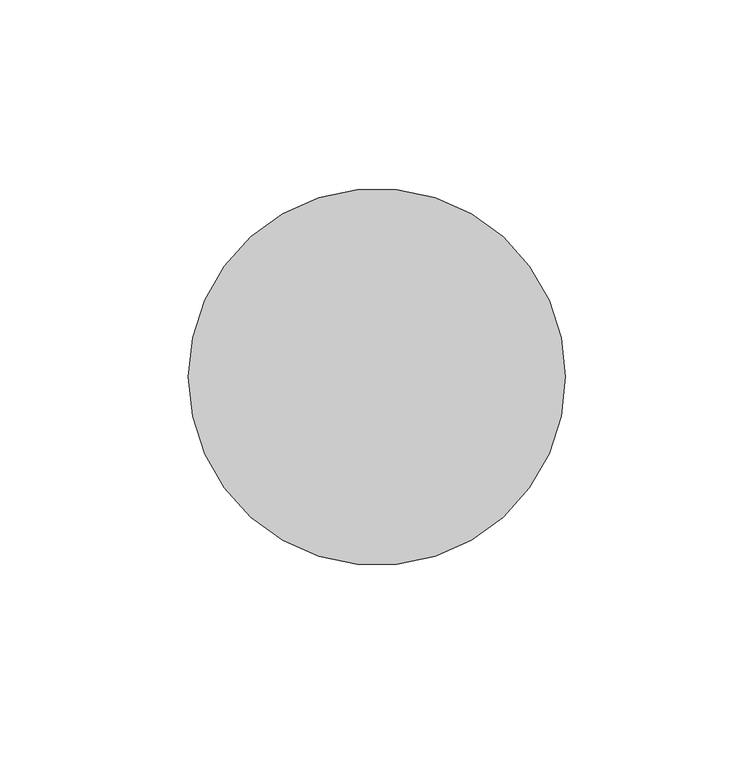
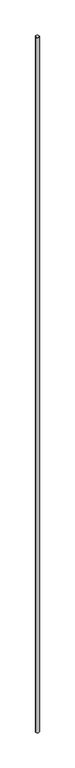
"""IFC4 building model written with IfcOpenShell, lengths in millimetres: proxy geometry, 営_3D_竪樋 : 3D_竪樋."""

from ifc_helpers import new_model, si_unit, point, frame, origin, origin_2d, place, context, project, spatial, circle_curve, trimmed, segment, composite_curve, outline, extrude, source, transform, mapped, element, save


def generic_models_93210aff(model_context):
    return source(origin(), model_context, "Body", "SweptSolid", [
        extrude(outline(composite_curve([segment(trimmed(circle_curve(origin_2d(), 50.0), [point((-50.0, 0.0))], [point((50.0, 0.0))], False, "CARTESIAN"), True, "CONTINUOUS"), segment(trimmed(circle_curve(origin_2d(), 50.0), [point((50.0, 0.0))], [point((-50.0, 0.0))], False, "CARTESIAN"), True, "CONTINUOUS")], self_intersect=False)), frame((0.0, 0.0, -250.0), z_axis=(0.0, 0.0, 1.0), x_axis=(1.0, 0.0, 0.0)), (0.0, 0.0, 1.0), 21400.0),
    ])


if __name__ == "__main__":
    model = new_model("IFC4")
    model_context = context("Model", 3, world=origin())
    ifc_project = project(units=[si_unit("LENGTHUNIT", "METRE", prefix="MILLI")], contexts=[model_context])
    site = spatial("IfcSite", under=ifc_project)
    building = spatial("IfcBuilding", under=site)
    placement = place(None, origin())
    generic_models_shape = generic_models_93210aff(model_context)
    element("IfcBuildingElementProxy", 1, Name="営_3D_竪樋 : 3D_竪樋", ObjectType="営_3D_竪樋 : 3D_竪樋", at=placement, inside=building, context=model_context, shape_type="MappedRepresentation", body=[
        mapped(generic_models_shape, transform((0.0, 0.0, 0.0), x_axis=(1.0, 0.0, 0.0), y_axis=(0.0, 1.0, 0.0), z_axis=(0.0, 0.0, 1.0))),
    ])
    save(model, "model.ifc")
